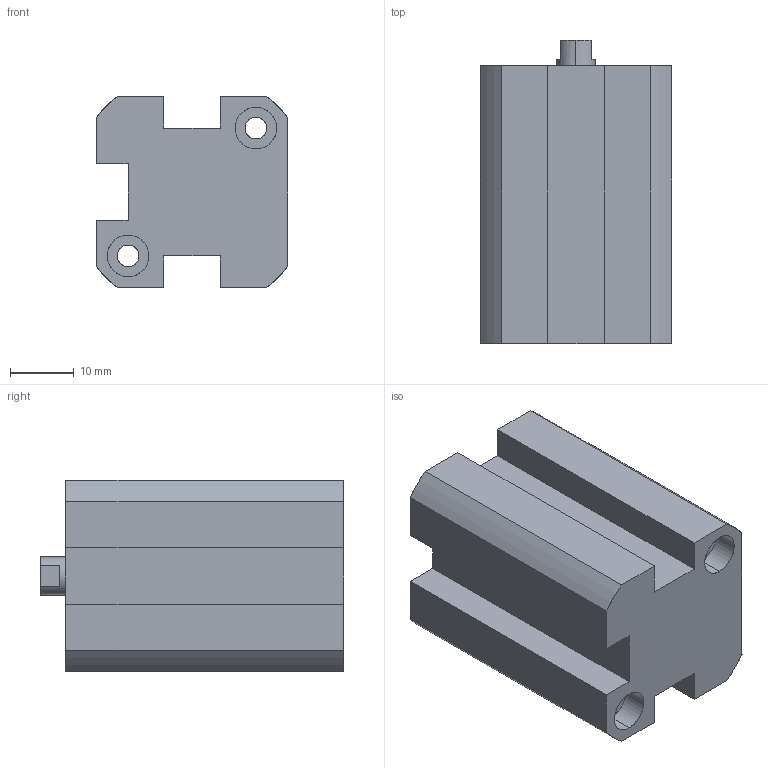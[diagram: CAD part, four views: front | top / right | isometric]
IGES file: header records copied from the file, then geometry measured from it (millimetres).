
Start section: SolidWorks IGES file using analytic representation for surfaces
Global section: file name: C:\Users\Toshiba\Desktop\XG#2-16D-10.IGS; native system: SolidWorks 2014; preprocessor: SolidWorks 2014; author: Toshiba; date: 160524.094618; units: millimetre
Bounding box: 30 x 47.5 x 30 mm (x, y, z)
Surface area: 9374.5 mm2 (no closed solid volume)
Topology: 0 solids, 0 shells, 77 faces, 1171 edges, 1165 vertices
Faces by surface type: revolution 45, bspline 32
